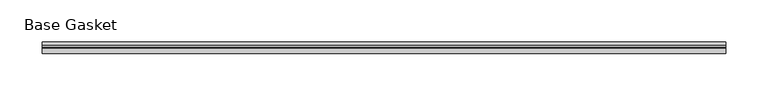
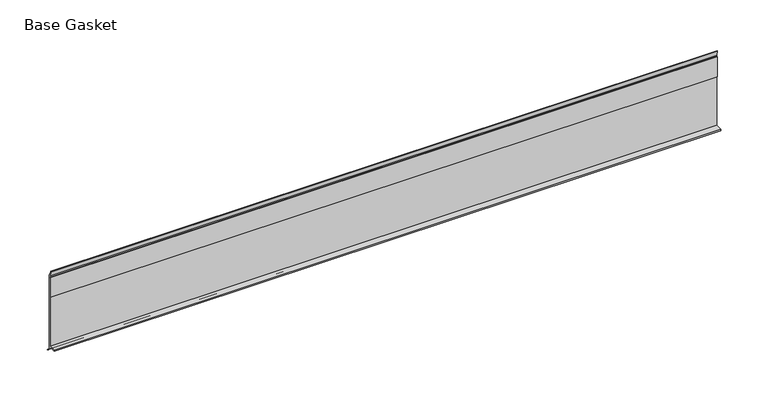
"""IFC4 building model written with IfcOpenShell, lengths in millimetres: furniture geometry, Gasket-Teknion-FHGB-AI_Healthcare-R2021 : Base Gasket."""

from ifc_helpers import new_model, si_unit, frame, origin, place, context, project, spatial, polyline, outline, extrude, source, transform, mapped, element, save


def base_gasket_8dc1d277(model_context):
    return source(origin(), model_context, "Body", "SweptSolid", [
        extrude(outline(polyline([(3.7283812, 98.4568417), (3.7283812, 4.3498477), (7.4222115, 0.6560174), (7.8482342, 0.0), (6.8281054, 0.3520979), (2.2043812, 4.3498477), (2.1334222, 6.3818476), (-6.2405171, 6.3818476), (-6.2405171, 7.9398773), (2.2043812, 7.9398773), (2.2043812, 71.4693447), (1.4106313, 71.4693447), (1.4106313, 96.8693477), (2.2043812, 96.8693477), (2.2043812, 98.4568417), (0.6755308, 104.4162708), (0.6755308, 105.2002997), (1.1891543, 104.587663), (3.7283812, 98.4568417)])), frame((-1527.8982117, 0.0, 0.0), z_axis=(1.0, 0.0, 0.0), x_axis=(0.0, 1.0, 0.0)), (0.0, 0.0, 1.0), 812.8),
    ])


if __name__ == "__main__":
    model = new_model("IFC4")
    model_context = context("Model", 3, world=origin())
    ifc_project = project(units=[si_unit("LENGTHUNIT", "METRE", prefix="MILLI")], contexts=[model_context])
    site = spatial("IfcSite", under=ifc_project)
    building = spatial("IfcBuilding", under=site)
    placement = place(None, origin())
    base_gasket_shape = base_gasket_8dc1d277(model_context)
    element("IfcFurniture", 1, ObjectType="Gasket-Teknion-FHGB-AI_Healthcare-R2021 : Base Gasket", at=placement, inside=building, context=model_context, shape_type="MappedRepresentation", body=[
        mapped(base_gasket_shape, transform((0.0, 0.0, 0.0), x_axis=(1.0, 0.0, 0.0), y_axis=(0.0, 1.0, 0.0), z_axis=(0.0, 0.0, 1.0))),
    ])
    save(model, "model.ifc")
